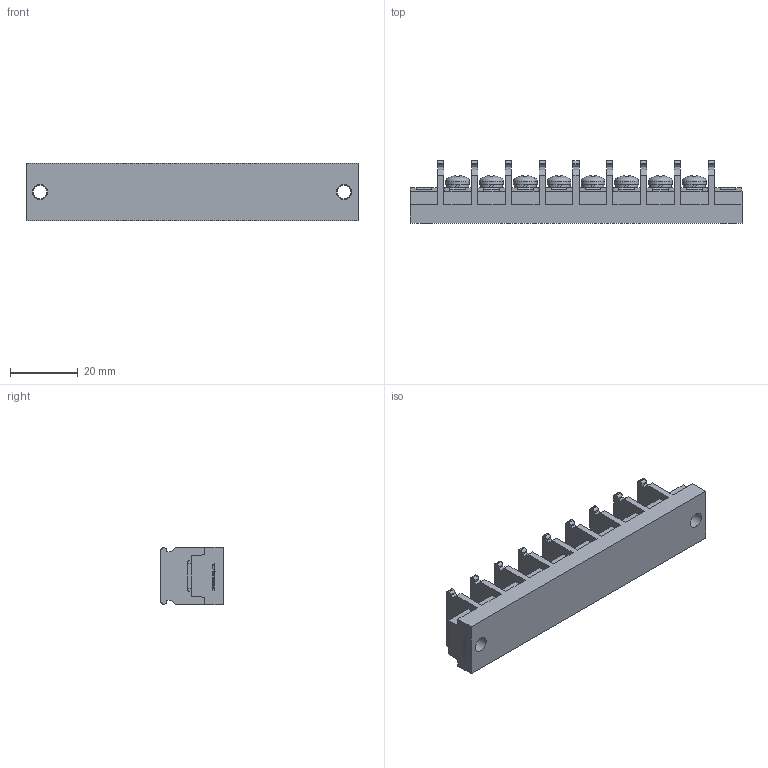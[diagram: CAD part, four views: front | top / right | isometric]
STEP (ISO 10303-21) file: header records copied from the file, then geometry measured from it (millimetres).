
FILE_DESCRIPTION(/* description */ ('Alibre Inc.'),/* implementation_level */ '2;1');
FILE_NAME(/* name */ 'export0',/* time_stamp */ '2015-10-14T19:53:32+09:00',/* author */ (''),/* organization */ (''),/* preprocessor_version */ 'ST-DEVELOPER v14',/* originating_system */ 'Alibre',/* authorisation */ '');
FILE_SCHEMA (('CONFIG_CONTROL_DESIGN'));
Length unit declared in the file: centimetre
Products named in the file (1): ID_1
Bounding box: 98.2 x 18.5 x 17 mm (x, y, z)
Volume: 17793.2 mm3; surface area: 10267.3 mm2
Topology: 1 solids, 17 shells, 940 faces, 2574 edges, 1708 vertices
Faces by surface type: plane 696, bspline 104, cylinder 84, cone 32, torus 16, sphere 8
Full cylindrical faces by diameter (mm): 4 x10, 4.5 x2, 6.5 x8, 7 x8
Entity records: 28822 total; most frequent: CARTESIAN_POINT 6327, ORIENTED_EDGE 5028, DIRECTION 3622, EDGE_CURVE 2514, VECTOR 1836, LINE 1836, VERTEX_POINT 1684, AXIS2_PLACEMENT_3D 1239
